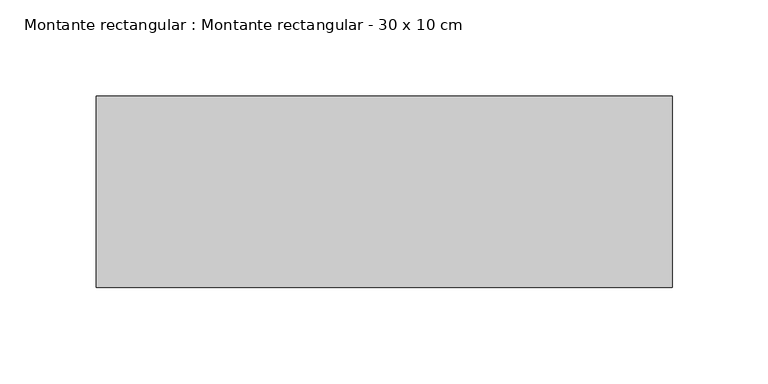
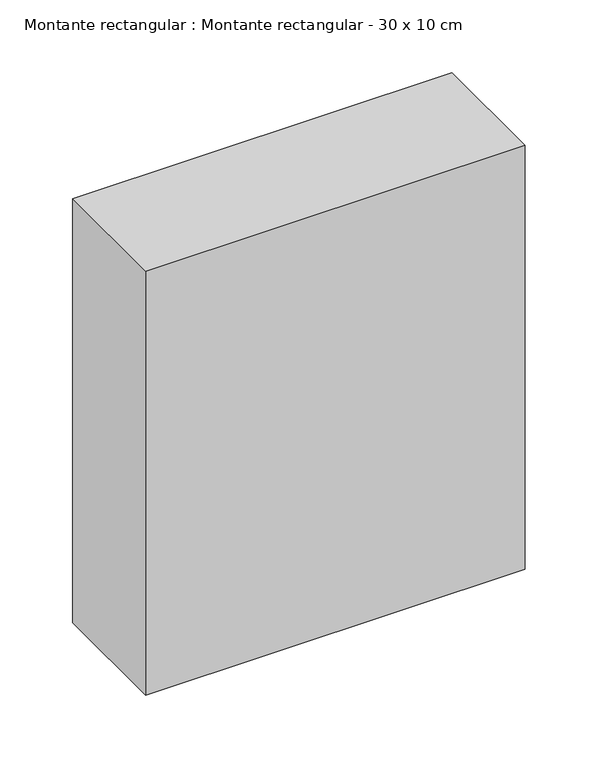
"""IFC4 building model written with IfcOpenShell, lengths in millimetres: member geometry, Montante rectangular : Montante rectangular - 30 x 10 cm."""

from ifc_helpers import new_model, si_unit, frame, origin, place, context, project, spatial, polyline, outline, extrude, source, transform, mapped, element, save


def montante_rectangular_montante_rectangular_30_x_10_cm_28c26dfe(model_context):
    return source(origin(), model_context, "Body", "SweptSolid", [
        extrude(outline(polyline([(-300.0, 50.0), (0.0, 50.0), (0.0, -50.0), (-300.0, -50.0), (-300.0, 50.0)])), frame((0.0, 0.0, -354.5629112), z_axis=(0.0, 0.0, 1.0), x_axis=(1.0, 0.0, 0.0)), (0.0, 0.0, 1.0), 354.5629112),
    ])


if __name__ == "__main__":
    model = new_model("IFC4")
    model_context = context("Model", 3, world=origin())
    ifc_project = project(units=[si_unit("LENGTHUNIT", "METRE", prefix="MILLI")], contexts=[model_context])
    site = spatial("IfcSite", under=ifc_project)
    building = spatial("IfcBuilding", under=site)
    placement = place(None, origin())
    montante_rectangular_montante_rectangular_30_x_10_cm_shape = montante_rectangular_montante_rectangular_30_x_10_cm_28c26dfe(model_context)
    element("IfcMember", 1, ObjectType="Montante rectangular : Montante rectangular - 30 x 10 cm", at=placement, inside=building, context=model_context, shape_type="MappedRepresentation", body=[
        mapped(montante_rectangular_montante_rectangular_30_x_10_cm_shape, transform((0.0, 0.0, 0.0), x_axis=(1.0, 0.0, 0.0), y_axis=(0.0, 1.0, 0.0), z_axis=(0.0, 0.0, 1.0))),
    ])
    save(model, "model.ifc")
